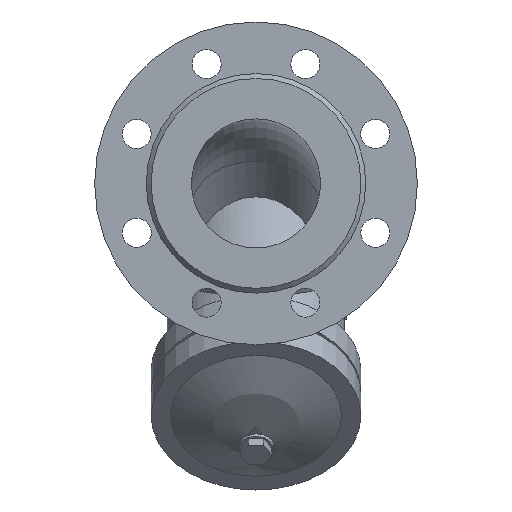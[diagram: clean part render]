
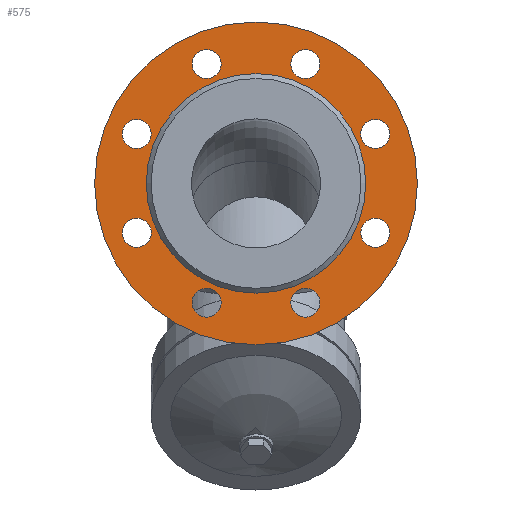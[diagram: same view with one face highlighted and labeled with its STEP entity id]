
A CAD part, front view. The second image highlights one B-rep face of the part: STEP entity #575.
In plain terms, the highlighted planar face has unit normal (0, -1, 0).
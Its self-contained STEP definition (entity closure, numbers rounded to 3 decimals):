
#575=ADVANCED_FACE('',(#1315,#1317,#1319,#1321,#1323,#1325,#1327,#1329,#1331,#1333),
#1335,.T.);
#1315=FACE_BOUND('',#1316,.T.);
#1316=EDGE_LOOP('',(#1788));
#1317=FACE_BOUND('',#1318,.T.);
#1318=EDGE_LOOP('',(#1789));
#1319=FACE_BOUND('',#1320,.T.);
#1320=EDGE_LOOP('',(#1790));
#1321=FACE_BOUND('',#1322,.T.);
#1322=EDGE_LOOP('',(#1791));
#1323=FACE_BOUND('',#1324,.T.);
#1324=EDGE_LOOP('',(#1792));
#1325=FACE_BOUND('',#1326,.T.);
#1326=EDGE_LOOP('',(#1793));
#1327=FACE_BOUND('',#1328,.T.);
#1328=EDGE_LOOP('',(#1794));
#1329=FACE_BOUND('',#1330,.T.);
#1330=EDGE_LOOP('',(#1795));
#1331=FACE_BOUND('',#1332,.T.);
#1332=EDGE_LOOP('',(#1796));
#1333=FACE_BOUND('',#1334,.T.);
#1334=EDGE_LOOP('',(#1797));
#1335=PLANE('',#1336);
#1336=AXIS2_PLACEMENT_3D('',#1337,#1338,#1339);
#1337=CARTESIAN_POINT('',(0.,-152.,0.));
#1338=DIRECTION('',(0.,-1.,0.));
#1339=DIRECTION('',(0.,0.,1.));
#1788=ORIENTED_EDGE('',*,*,#1980,.F.);
#1789=ORIENTED_EDGE('',*,*,#1988,.T.);
#1790=ORIENTED_EDGE('',*,*,#1987,.T.);
#1791=ORIENTED_EDGE('',*,*,#1986,.T.);
#1792=ORIENTED_EDGE('',*,*,#1985,.T.);
#1793=ORIENTED_EDGE('',*,*,#1984,.T.);
#1794=ORIENTED_EDGE('',*,*,#1983,.T.);
#1795=ORIENTED_EDGE('',*,*,#1982,.T.);
#1796=ORIENTED_EDGE('',*,*,#1999,.T.);
#1797=ORIENTED_EDGE('',*,*,#1981,.T.);
#1980=EDGE_CURVE('',#2213,#2213,#2214,.T.);
#1981=EDGE_CURVE('',#2215,#2215,#2216,.F.);
#1982=EDGE_CURVE('',#2217,#2217,#2218,.F.);
#1983=EDGE_CURVE('',#2219,#2219,#2220,.F.);
#1984=EDGE_CURVE('',#2221,#2221,#2222,.F.);
#1985=EDGE_CURVE('',#2223,#2223,#2224,.F.);
#1986=EDGE_CURVE('',#2225,#2225,#2226,.F.);
#1987=EDGE_CURVE('',#2227,#2227,#2228,.F.);
#1988=EDGE_CURVE('',#2229,#2229,#2230,.F.);
#1999=EDGE_CURVE('',#2251,#2251,#2252,.T.);
#2213=VERTEX_POINT('',#3564);
#2214=CIRCLE('',#3565,100.);
#2215=VERTEX_POINT('',#3569);
#2216=CIRCLE('',#3570,9.);
#2217=VERTEX_POINT('',#3574);
#2218=CIRCLE('',#3575,9.);
#2219=VERTEX_POINT('',#3579);
#2220=CIRCLE('',#3580,9.);
#2221=VERTEX_POINT('',#3584);
#2222=CIRCLE('',#3585,9.);
#2223=VERTEX_POINT('',#3589);
#2224=CIRCLE('',#3590,9.);
#2225=VERTEX_POINT('',#3594);
#2226=CIRCLE('',#3595,9.);
#2227=VERTEX_POINT('',#3599);
#2228=CIRCLE('',#3600,9.);
#2229=VERTEX_POINT('',#3604);
#2230=CIRCLE('',#3605,9.);
#2251=VERTEX_POINT('',#3659);
#2252=CIRCLE('',#3660,68.);
#3564=CARTESIAN_POINT('',(0.,-152.,100.));
#3565=AXIS2_PLACEMENT_3D('',#3566,#3567,#3568);
#3566=CARTESIAN_POINT('',(0.,-152.,0.));
#3567=DIRECTION('',(0.,1.,0.));
#3568=DIRECTION('',(0.,0.,1.));
#3569=CARTESIAN_POINT('',(-21.615,-152.,73.91));
#3570=AXIS2_PLACEMENT_3D('',#3571,#3572,#3573);
#3571=CARTESIAN_POINT('',(-30.615,-152.,73.91));
#3572=DIRECTION('',(0.,-1.,0.));
#3573=DIRECTION('',(1.,0.,0.));
#3574=CARTESIAN_POINT('',(-67.546,-152.,36.979));
#3575=AXIS2_PLACEMENT_3D('',#3576,#3577,#3578);
#3576=CARTESIAN_POINT('',(-73.91,-152.,30.615));
#3577=DIRECTION('',(0.,-1.,0.));
#3578=DIRECTION('',(0.707,0.,0.707));
#3579=CARTESIAN_POINT('',(-73.91,-152.,-21.615));
#3580=AXIS2_PLACEMENT_3D('',#3581,#3582,#3583);
#3581=CARTESIAN_POINT('',(-73.91,-152.,-30.615));
#3582=DIRECTION('',(0.,-1.,0.));
#3583=DIRECTION('',(0.,0.,1.));
#3584=CARTESIAN_POINT('',(-36.979,-152.,-67.546));
#3585=AXIS2_PLACEMENT_3D('',#3586,#3587,#3588);
#3586=CARTESIAN_POINT('',(-30.615,-152.,-73.91));
#3587=DIRECTION('',(0.,-1.,0.));
#3588=DIRECTION('',(-0.707,0.,0.707));
#3589=CARTESIAN_POINT('',(21.615,-152.,-73.91));
#3590=AXIS2_PLACEMENT_3D('',#3591,#3592,#3593);
#3591=CARTESIAN_POINT('',(30.615,-152.,-73.91));
#3592=DIRECTION('',(0.,-1.,0.));
#3593=DIRECTION('',(-1.,0.,0.));
#3594=CARTESIAN_POINT('',(67.546,-152.,-36.979));
#3595=AXIS2_PLACEMENT_3D('',#3596,#3597,#3598);
#3596=CARTESIAN_POINT('',(73.91,-152.,-30.615));
#3597=DIRECTION('',(0.,-1.,0.));
#3598=DIRECTION('',(-0.707,0.,-0.707));
#3599=CARTESIAN_POINT('',(73.91,-152.,21.615));
#3600=AXIS2_PLACEMENT_3D('',#3601,#3602,#3603);
#3601=CARTESIAN_POINT('',(73.91,-152.,30.615));
#3602=DIRECTION('',(0.,-1.,0.));
#3603=DIRECTION('',(0.,0.,-1.));
#3604=CARTESIAN_POINT('',(36.979,-152.,67.546));
#3605=AXIS2_PLACEMENT_3D('',#3606,#3607,#3608);
#3606=CARTESIAN_POINT('',(30.615,-152.,73.91));
#3607=DIRECTION('',(0.,-1.,0.));
#3608=DIRECTION('',(0.707,0.,-0.707));
#3659=CARTESIAN_POINT('',(0.,-152.,68.));
#3660=AXIS2_PLACEMENT_3D('',#3661,#3662,#3663);
#3661=CARTESIAN_POINT('',(0.,-152.,0.));
#3662=DIRECTION('',(0.,1.,0.));
#3663=DIRECTION('',(0.,0.,1.));
